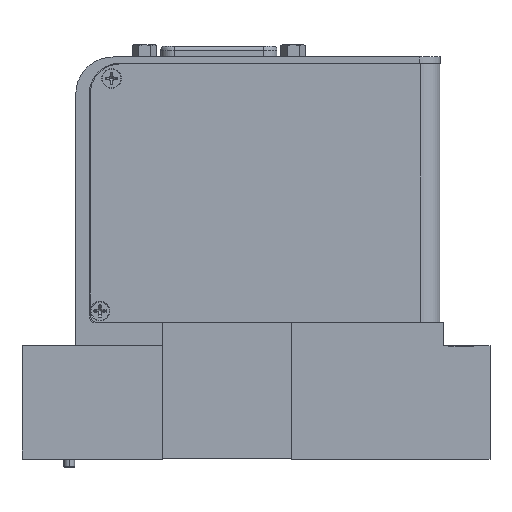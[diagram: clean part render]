
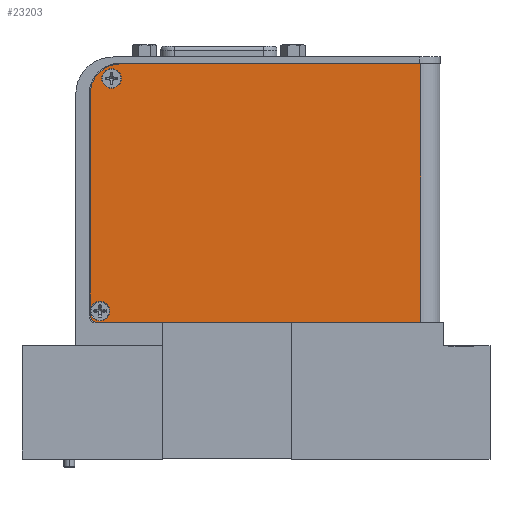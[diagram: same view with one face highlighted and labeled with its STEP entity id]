
A CAD part, top view. The second image highlights one B-rep face of the part: STEP entity #23203.
In plain terms, the highlighted planar face has unit normal (0, 0, 1).
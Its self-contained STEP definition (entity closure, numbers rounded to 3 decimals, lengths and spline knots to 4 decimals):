
#526 = EDGE_CURVE ( 'NONE', #19957, #30982, #12707, .T. ) ;
#717 = ORIENTED_EDGE ( 'NONE', *, *, #4918, .T. ) ;
#1325 = CARTESIAN_POINT ( 'NONE',  ( 0.7411, 4.5118, 3.0735 ) ) ;
#1725 = ORIENTED_EDGE ( 'NONE', *, *, #60953, .T. ) ;
#3305 = CARTESIAN_POINT ( 'NONE',  ( 1.0111, 4.5118, 3.0735 ) ) ;
#3556 = CARTESIAN_POINT ( 'NONE',  ( 0.8451, 4.6528, 3.0735 ) ) ;
#4432 = VERTEX_POINT ( 'NONE', #50739 ) ;
#4918 = EDGE_CURVE ( 'NONE', #24566, #37856, #41182, .T. ) ;
#5026 = ORIENTED_EDGE ( 'NONE', *, *, #12867, .F. ) ;
#5058 = ORIENTED_EDGE ( 'NONE', *, *, #55904, .T. ) ;
#5421 = AXIS2_PLACEMENT_3D ( 'NONE', #32978, #32512, #58227 ) ;
#5667 = CIRCLE ( 'NONE', #39403, 0.086 ) ;
#5683 = CARTESIAN_POINT ( 'NONE',  ( 1.0171, 4.6528, 3.0735 ) ) ;
#5853 = DIRECTION ( 'NONE',  ( 0., 0., -1. ) ) ;
#7492 = CIRCLE ( 'NONE', #61810, 0.086 ) ;
#8291 = AXIS2_PLACEMENT_3D ( 'NONE', #34993, #5853, #10640 ) ;
#8576 = ORIENTED_EDGE ( 'NONE', *, *, #50720, .F. ) ;
#8686 = CARTESIAN_POINT ( 'NONE',  ( 0.8291, 2.5988, 3.0735 ) ) ;
#8721 = EDGE_LOOP ( 'NONE', ( #717, #5058 ) ) ;
#10409 = FACE_OUTER_BOUND ( 'NONE', #53124, .T. ) ;
#10640 = DIRECTION ( 'NONE',  ( 1., 0., 0. ) ) ;
#11099 = VECTOR ( 'NONE', #48713, 39.3701 ) ;
#11500 = AXIS2_PLACEMENT_3D ( 'NONE', #28888, #67191, #49822 ) ;
#12707 = CIRCLE ( 'NONE', #30093, 0.27 ) ;
#12867 = EDGE_CURVE ( 'NONE', #4432, #19957, #61562, .T. ) ;
#15958 = DIRECTION ( 'NONE',  ( 0., 0., -1. ) ) ;
#16844 = CARTESIAN_POINT ( 'NONE',  ( 0.8291, 2.5988, 3.0735 ) ) ;
#17383 = VECTOR ( 'NONE', #44163, 39.3701 ) ;
#19040 = DIRECTION ( 'NONE',  ( 1., 0., 0. ) ) ;
#19957 = VERTEX_POINT ( 'NONE', #1325 ) ;
#21122 = EDGE_LOOP ( 'NONE', ( #64140, #66572 ) ) ;
#21255 = AXIS2_PLACEMENT_3D ( 'NONE', #8686, #65607, #19040 ) ;
#22920 = VERTEX_POINT ( 'NONE', #3556 ) ;
#23203 = ADVANCED_FACE ( 'NONE', ( #10409, #56494, #33054 ), #50712, .F. ) ;
#24566 = VERTEX_POINT ( 'NONE', #63917 ) ;
#24957 = DIRECTION ( 'NONE',  ( 1., 0., 0. ) ) ;
#25008 = CARTESIAN_POINT ( 'NONE',  ( 3.6601, 4.7818, 3.0735 ) ) ;
#25233 = CARTESIAN_POINT ( 'NONE',  ( 3.6601, 4.7818, 3.0735 ) ) ;
#25687 = DIRECTION ( 'NONE',  ( 0., -1., 0. ) ) ;
#28888 = CARTESIAN_POINT ( 'NONE',  ( 3.6601, 4.7818, 3.0735 ) ) ;
#29381 = DIRECTION ( 'NONE',  ( -1., 0., 0. ) ) ;
#30093 = AXIS2_PLACEMENT_3D ( 'NONE', #3305, #45961, #29381 ) ;
#30284 = VERTEX_POINT ( 'NONE', #51710 ) ;
#30481 = EDGE_CURVE ( 'NONE', #22920, #64058, #5667, .T. ) ;
#30982 = VERTEX_POINT ( 'NONE', #61073 ) ;
#32034 = CIRCLE ( 'NONE', #5421, 0.063 ) ;
#32512 = DIRECTION ( 'NONE',  ( 0., 0., -1. ) ) ;
#32897 = CARTESIAN_POINT ( 'NONE',  ( 0.7411, 4.7818, 3.0735 ) ) ;
#32978 = CARTESIAN_POINT ( 'NONE',  ( 0.8041, 2.5638, 3.0735 ) ) ;
#33036 = CARTESIAN_POINT ( 'NONE',  ( 3.8001, 4.7818, 3.0735 ) ) ;
#33054 = FACE_BOUND ( 'NONE', #8721, .T. ) ;
#34324 = VERTEX_POINT ( 'NONE', #66510 ) ;
#34993 = CARTESIAN_POINT ( 'NONE',  ( 0.9311, 4.6528, 3.0735 ) ) ;
#36054 = CIRCLE ( 'NONE', #8291, 0.086 ) ;
#37856 = VERTEX_POINT ( 'NONE', #51360 ) ;
#38906 = EDGE_CURVE ( 'NONE', #64058, #22920, #36054, .T. ) ;
#39403 = AXIS2_PLACEMENT_3D ( 'NONE', #43871, #49175, #64763 ) ;
#41182 = CIRCLE ( 'NONE', #21255, 0.086 ) ;
#41469 = CARTESIAN_POINT ( 'NONE',  ( 3.6601, 2.5008, 3.0735 ) ) ;
#43871 = CARTESIAN_POINT ( 'NONE',  ( 0.9311, 4.6528, 3.0735 ) ) ;
#44163 = DIRECTION ( 'NONE',  ( 0., 1., 0. ) ) ;
#44185 = VECTOR ( 'NONE', #25687, 39.3701 ) ;
#44920 = VERTEX_POINT ( 'NONE', #25008 ) ;
#45961 = DIRECTION ( 'NONE',  ( 0., 0., -1. ) ) ;
#46179 = ORIENTED_EDGE ( 'NONE', *, *, #64457, .F. ) ;
#48713 = DIRECTION ( 'NONE',  ( 1., 0., 0. ) ) ;
#49175 = DIRECTION ( 'NONE',  ( 0., 0., -1. ) ) ;
#49822 = DIRECTION ( 'NONE',  ( -1., 0., 0. ) ) ;
#50712 = PLANE ( 'NONE',  #11500 ) ;
#50720 = EDGE_CURVE ( 'NONE', #44920, #30284, #66254, .T. ) ;
#50739 = CARTESIAN_POINT ( 'NONE',  ( 0.7411, 2.5638, 3.0735 ) ) ;
#51360 = CARTESIAN_POINT ( 'NONE',  ( 0.7431, 2.5988, 3.0735 ) ) ;
#51710 = CARTESIAN_POINT ( 'NONE',  ( 3.6601, 2.5008, 3.0735 ) ) ;
#53124 = EDGE_LOOP ( 'NONE', ( #46179, #1725, #8576, #62905, #64028, #5026 ) ) ;
#53571 = VECTOR ( 'NONE', #24957, 39.3701 ) ;
#53680 = LINE ( 'NONE', #41469, #53571 ) ;
#55904 = EDGE_CURVE ( 'NONE', #37856, #24566, #7492, .T. ) ;
#56494 = FACE_BOUND ( 'NONE', #21122, .T. ) ;
#56879 = EDGE_CURVE ( 'NONE', #30982, #44920, #57027, .T. ) ;
#57027 = LINE ( 'NONE', #33036, #11099 ) ;
#58227 = DIRECTION ( 'NONE',  ( 1., 0., 0. ) ) ;
#58275 = DIRECTION ( 'NONE',  ( 1., 0., 0. ) ) ;
#60953 = EDGE_CURVE ( 'NONE', #34324, #30284, #53680, .T. ) ;
#61073 = CARTESIAN_POINT ( 'NONE',  ( 1.0111, 4.7818, 3.0735 ) ) ;
#61562 = LINE ( 'NONE', #32897, #17383 ) ;
#61810 = AXIS2_PLACEMENT_3D ( 'NONE', #16844, #15958, #58275 ) ;
#62905 = ORIENTED_EDGE ( 'NONE', *, *, #56879, .F. ) ;
#63917 = CARTESIAN_POINT ( 'NONE',  ( 0.9151, 2.5988, 3.0735 ) ) ;
#64028 = ORIENTED_EDGE ( 'NONE', *, *, #526, .F. ) ;
#64058 = VERTEX_POINT ( 'NONE', #5683 ) ;
#64140 = ORIENTED_EDGE ( 'NONE', *, *, #38906, .T. ) ;
#64457 = EDGE_CURVE ( 'NONE', #34324, #4432, #32034, .T. ) ;
#64763 = DIRECTION ( 'NONE',  ( 1., 0., 0. ) ) ;
#65607 = DIRECTION ( 'NONE',  ( 0., 0., -1. ) ) ;
#66254 = LINE ( 'NONE', #25233, #44185 ) ;
#66510 = CARTESIAN_POINT ( 'NONE',  ( 0.8041, 2.5008, 3.0735 ) ) ;
#66572 = ORIENTED_EDGE ( 'NONE', *, *, #30481, .T. ) ;
#67191 = DIRECTION ( 'NONE',  ( 0., 0., -1. ) ) ;
